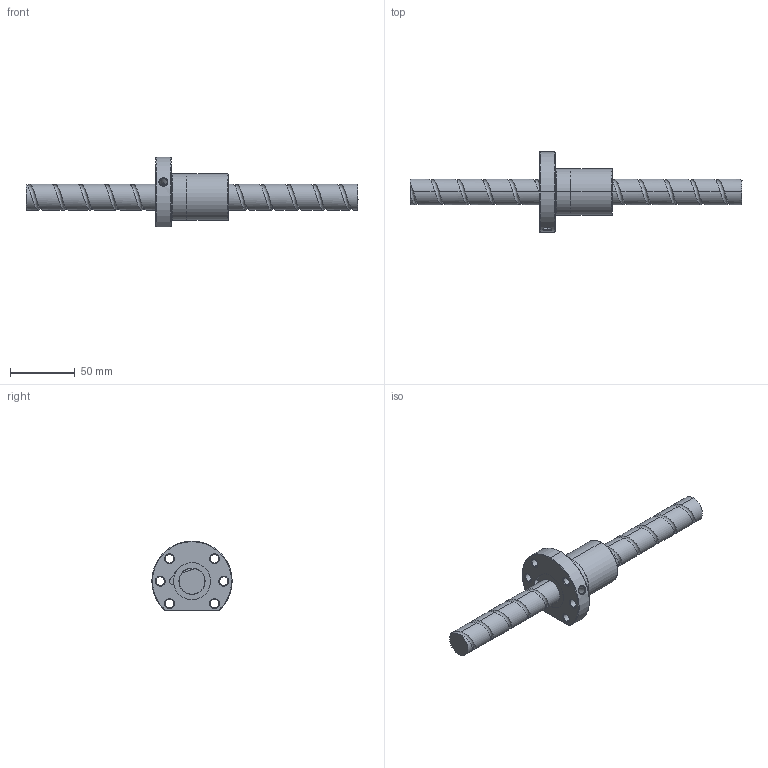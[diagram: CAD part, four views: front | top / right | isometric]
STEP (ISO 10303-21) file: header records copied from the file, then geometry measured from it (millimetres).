
FILE_DESCRIPTION (( 'STEP AP214' ), '1' );
FILE_NAME ('FSDC02020T2-B-B.STEP', '2010-06-25T11:32:53', ( 'XPAUTO' ), ( 'XPAUTO' ), 'SwSTEP 2.0', 'SolidWorks 2007', '' );
FILE_SCHEMA (( 'AUTOMOTIVE_DESIGN' ));
Length unit declared in the file: millimetre
Products named in the file (3): FSDC02020T2-B-B; FSDC02020T2-B-B.sldasm-Part-2_預設; FSDC02020T2-B-B.sldasm-Part-1_預設
Assembly tree (2 placements, depth 2):
  FSDC02020T2-B-B
    FSDC02020T2-B-B.sldasm-Part-2_預設
    FSDC02020T2-B-B.sldasm-Part-1_預設
Bounding box: 256.14 x 61.98 x 54 mm (x, y, z)
Volume: 134762.1 mm3; surface area: 34768.3 mm2
Topology: 2 solids, 2 shells, 117 faces, 288 edges, 180 vertices
Faces by surface type: cylinder 64, cone 24, plane 19, bspline 5, torus 5
Entity records: 21851 total; most frequent: CARTESIAN_POINT 19051, ORIENTED_EDGE 576, DIRECTION 554, EDGE_CURVE 288, AXIS2_PLACEMENT_3D 227, VERTEX_POINT 180, EDGE_LOOP 138, FACE_OUTER_BOUND 117
